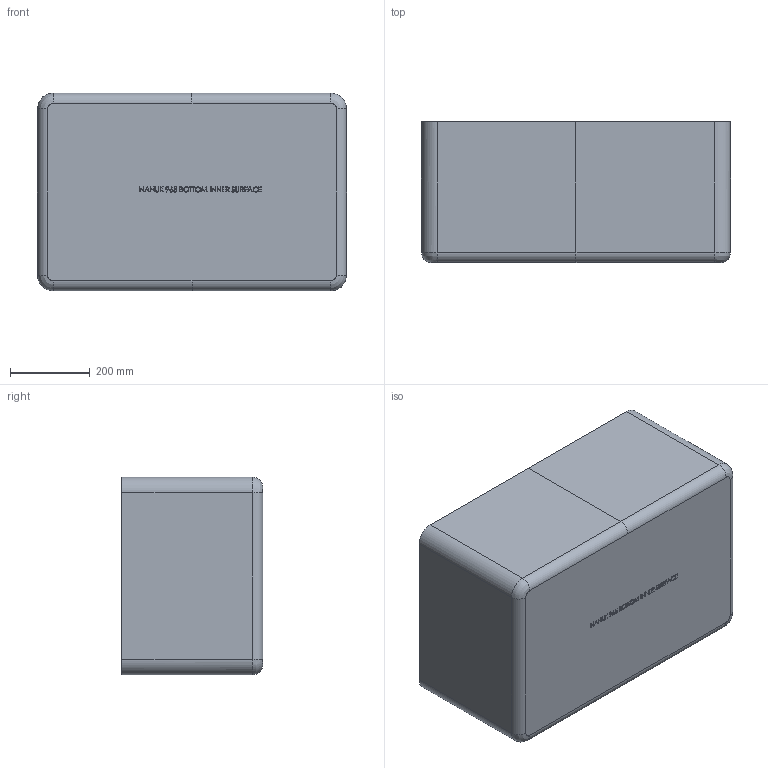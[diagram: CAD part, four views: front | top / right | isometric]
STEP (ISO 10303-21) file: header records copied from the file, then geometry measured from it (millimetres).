
FILE_DESCRIPTION (( 'STEP AP203' ), '1' );
FILE_NAME ('965_Btm_INNER_SURFACE.STEP', '2019-07-23T15:48:52', ( '' ), ( '' ), 'SwSTEP 2.0', 'SolidWorks 2018', '' );
FILE_SCHEMA (( 'CONFIG_CONTROL_DESIGN' ));
Length unit declared in the file: inch
Products named in the file (1): 965_Btm_INNER_SURFACE
Bounding box: 775.26 x 354.71 x 495.86 mm (x, y, z)
Volume: 30938409.8 mm3; surface area: 2374215.6 mm2
Topology: 1 solids, 3 shells, 1723 faces, 4198 edges, 2430 vertices
Faces by surface type: bspline 950, plane 427, cylinder 302, torus 22, cone 16, sphere 6
Entity records: 89788 total; most frequent: CARTESIAN_POINT 57407, ORIENTED_EDGE 8156, DIRECTION 4713, EDGE_CURVE 4078, VERTEX_POINT 2430, EDGE_LOOP 1792, FACE_OUTER_BOUND 1723, ADVANCED_FACE 1723
